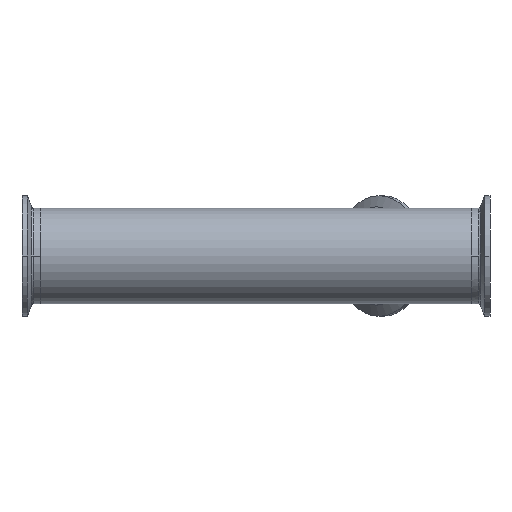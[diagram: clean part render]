
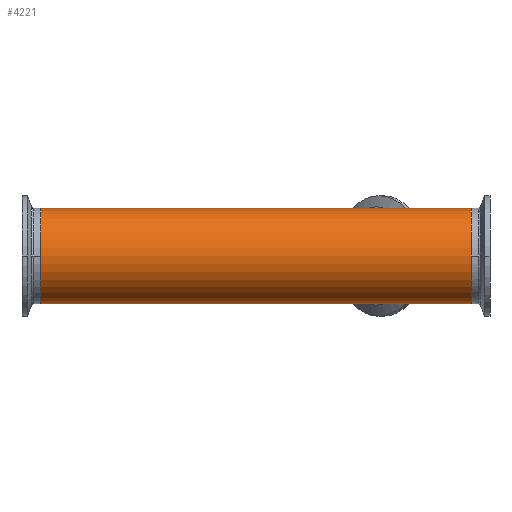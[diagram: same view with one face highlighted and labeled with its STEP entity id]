
A CAD part, front view. The second image highlights one B-rep face of the part: STEP entity #4221.
In plain terms, the highlighted cylindrical face has radius 25.4 mm (diameter 50.8 mm), a partial arc.
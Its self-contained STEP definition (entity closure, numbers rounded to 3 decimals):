
#57 = DIRECTION ( 'NONE',  ( 0., 0., -1. ) ) ;
#169 = VERTEX_POINT ( 'NONE', #1284 ) ;
#171 = AXIS2_PLACEMENT_3D ( 'NONE', #4304, #2211, #57 ) ;
#218 = CARTESIAN_POINT ( 'NONE',  ( -44., 0., 25.4 ) ) ;
#267 = ORIENTED_EDGE ( 'NONE', *, *, #4109, .T. ) ;
#337 = ORIENTED_EDGE ( 'NONE', *, *, #3947, .T. ) ;
#357 = AXIS2_PLACEMENT_3D ( 'NONE', #1518, #3994, #1886 ) ;
#374 = ORIENTED_EDGE ( 'NONE', *, *, #2141, .F. ) ;
#408 = VECTOR ( 'NONE', #4388, 1000. ) ;
#567 = DIRECTION ( 'NONE',  ( 0., 0., -1. ) ) ;
#577 = CARTESIAN_POINT ( 'NONE',  ( -44., 0., 25.4 ) ) ;
#612 = VECTOR ( 'NONE', #2362, 1000. ) ;
#642 = LINE ( 'NONE', #1922, #408 ) ;
#918 = DIRECTION ( 'NONE',  ( 1., 0., 0. ) ) ;
#991 = AXIS2_PLACEMENT_3D ( 'NONE', #4455, #918, #567 ) ;
#1284 = CARTESIAN_POINT ( 'NONE',  ( 183.7, 0., 25.4 ) ) ;
#1414 = EDGE_CURVE ( 'NONE', #1830, #2531, #4584, .T. ) ;
#1428 = DIRECTION ( 'NONE',  ( 1., 0., 0. ) ) ;
#1475 = CARTESIAN_POINT ( 'NONE',  ( 183.7, 0., -25.4 ) ) ;
#1518 = CARTESIAN_POINT ( 'NONE',  ( -44., 0., 0. ) ) ;
#1622 = CARTESIAN_POINT ( 'NONE',  ( -44., 0., 25.4 ) ) ;
#1830 = VERTEX_POINT ( 'NONE', #2741 ) ;
#1886 = DIRECTION ( 'NONE',  ( 0., 0., -1. ) ) ;
#1909 = CARTESIAN_POINT ( 'NONE',  ( 0., 0., -25.4 ) ) ;
#1922 = CARTESIAN_POINT ( 'NONE',  ( -44., 0., -25.4 ) ) ;
#1941 = ORIENTED_EDGE ( 'NONE', *, *, #3383, .F. ) ;
#2104 = FACE_OUTER_BOUND ( 'NONE', #4267, .T. ) ;
#2141 = EDGE_CURVE ( 'NONE', #4493, #2846, #4254, .T. ) ;
#2211 = DIRECTION ( 'NONE',  ( -1., 0., 0. ) ) ;
#2227 = VECTOR ( 'NONE', #4467, 1000. ) ;
#2362 = DIRECTION ( 'NONE',  ( 1., 0., 0. ) ) ;
#2438 = CIRCLE ( 'NONE', #357, 25.4 ) ;
#2460 = EDGE_CURVE ( 'NONE', #3197, #169, #3592, .T. ) ;
#2531 = VERTEX_POINT ( 'NONE', #1909 ) ;
#2741 = CARTESIAN_POINT ( 'NONE',  ( -44., 0., -25.4 ) ) ;
#2846 = VERTEX_POINT ( 'NONE', #3474 ) ;
#3197 = VERTEX_POINT ( 'NONE', #1475 ) ;
#3318 = VECTOR ( 'NONE', #1428, 1000. ) ;
#3383 = EDGE_CURVE ( 'NONE', #2846, #169, #4093, .T. ) ;
#3474 = CARTESIAN_POINT ( 'NONE',  ( 0., 0., 25.4 ) ) ;
#3592 = CIRCLE ( 'NONE', #171, 25.4 ) ;
#3756 = CYLINDRICAL_SURFACE ( 'NONE', #991, 25.4 ) ;
#3947 = EDGE_CURVE ( 'NONE', #4493, #1830, #2438, .T. ) ;
#3994 = DIRECTION ( 'NONE',  ( 1., 0., 0. ) ) ;
#4093 = LINE ( 'NONE', #577, #2227 ) ;
#4108 = ORIENTED_EDGE ( 'NONE', *, *, #2460, .T. ) ;
#4109 = EDGE_CURVE ( 'NONE', #2531, #3197, #642, .T. ) ;
#4221 = ADVANCED_FACE ( 'NONE', ( #2104 ), #3756, .T. ) ;
#4253 = CARTESIAN_POINT ( 'NONE',  ( -44., 0., -25.4 ) ) ;
#4254 = LINE ( 'NONE', #218, #612 ) ;
#4267 = EDGE_LOOP ( 'NONE', ( #374, #337, #4583, #267, #4108, #1941 ) ) ;
#4304 = CARTESIAN_POINT ( 'NONE',  ( 183.7, 0., 0. ) ) ;
#4388 = DIRECTION ( 'NONE',  ( 1., 0., 0. ) ) ;
#4455 = CARTESIAN_POINT ( 'NONE',  ( -44., 0., 0. ) ) ;
#4467 = DIRECTION ( 'NONE',  ( 1., 0., 0. ) ) ;
#4493 = VERTEX_POINT ( 'NONE', #1622 ) ;
#4583 = ORIENTED_EDGE ( 'NONE', *, *, #1414, .T. ) ;
#4584 = LINE ( 'NONE', #4253, #3318 ) ;
